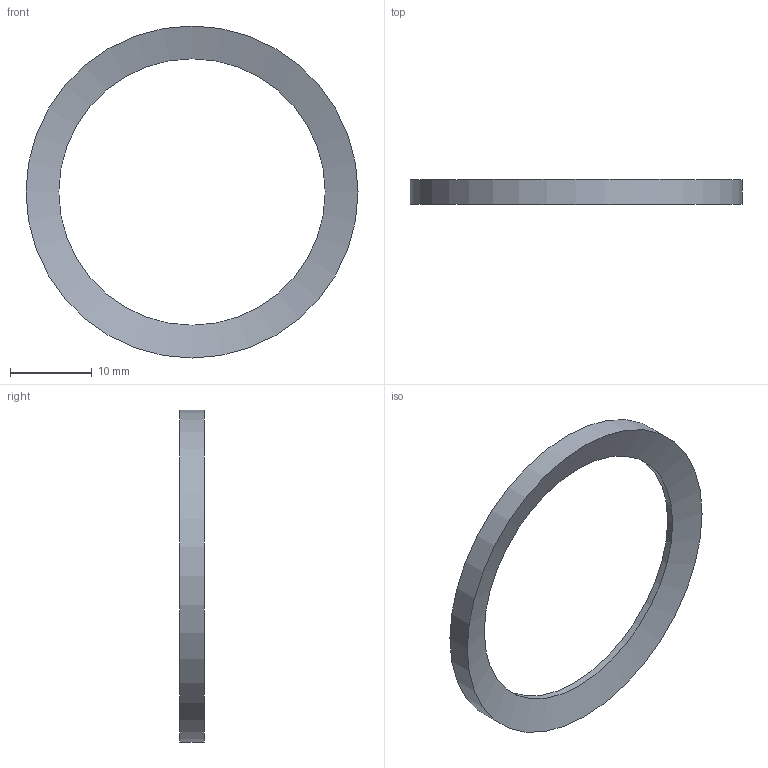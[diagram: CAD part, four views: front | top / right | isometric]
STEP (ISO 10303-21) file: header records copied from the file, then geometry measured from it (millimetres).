
FILE_DESCRIPTION(/* description */ (''),/* implementation_level */ '2;1');
FILE_NAME(/* name */ 'Z:\Geberit\Export\NewStep\379782.stp',/* time_stamp */ '2014-04-02T08:07:34+02:00',/* author */ ('nelson'),/* organization */ (''),/* preprocessor_version */ 'ST-DEVELOPER v15.2',/* originating_system */ 'Autodesk Inventor 2014',/* authorisation */ '');
FILE_SCHEMA (('AUTOMOTIVE_DESIGN { 1 0 10303 214 3 1 1 }'));
Length unit declared in the file: millimetre
Products named in the file (1): 379782
Bounding box: 40.5 x 3 x 40.5 mm (x, y, z)
Volume: 902.4 mm3; surface area: 1418.8 mm2
Topology: 1 solids, 1 shells, 4 faces, 8 edges, 4 vertices
Faces by surface type: cylinder 2, cone 2
Full cylindrical faces by diameter (mm): 32.5 x1, 40.5 x1
Entity records: 113 total; most frequent: DIRECTION 18, CARTESIAN_POINT 13, AXIS2_PLACEMENT_3D 9, EDGE_LOOP 8, ORIENTED_EDGE 8, STYLED_ITEM 5, FACE_BOUND 4, FACE_OUTER_BOUND 4
